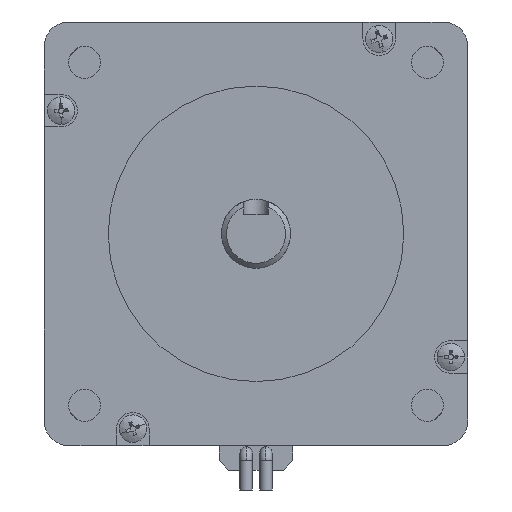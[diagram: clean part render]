
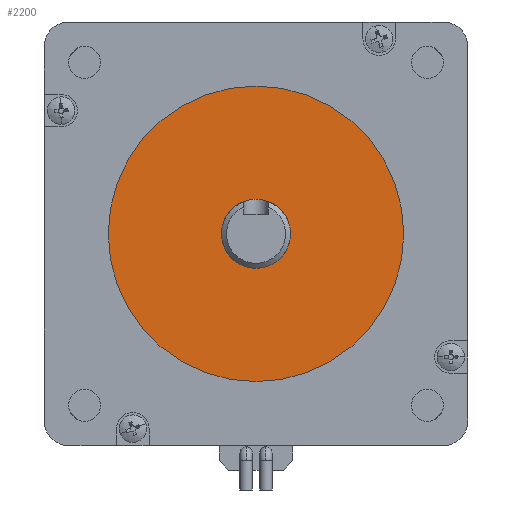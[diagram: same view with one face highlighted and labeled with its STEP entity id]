
A CAD part, front view. The second image highlights one B-rep face of the part: STEP entity #2200.
In plain terms, the highlighted planar face has unit normal (0, -1, 0).
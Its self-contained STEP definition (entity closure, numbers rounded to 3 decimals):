
#86 = EDGE_LOOP ( 'NONE', ( #2986, #1190 ) ) ;
#113 = AXIS2_PLACEMENT_3D ( 'NONE', #3640, #1755, #4327 ) ;
#373 = EDGE_CURVE ( 'NONE', #3242, #5963, #3762, .T. ) ;
#768 = EDGE_LOOP ( 'NONE', ( #6072, #1205 ) ) ;
#976 = VERTEX_POINT ( 'NONE', #1807 ) ;
#1073 = AXIS2_PLACEMENT_3D ( 'NONE', #3435, #5398, #4840 ) ;
#1157 = CIRCLE ( 'NONE', #1957, 30. ) ;
#1190 = ORIENTED_EDGE ( 'NONE', *, *, #4432, .F. ) ;
#1205 = ORIENTED_EDGE ( 'NONE', *, *, #2059, .T. ) ;
#1615 = CARTESIAN_POINT ( 'NONE',  ( -9.053, -35.091, 7.965 ) ) ;
#1682 = CARTESIAN_POINT ( 'NONE',  ( -9.053, -35.091, 14.965 ) ) ;
#1720 = PLANE ( 'NONE',  #113 ) ;
#1755 = DIRECTION ( 'NONE',  ( 0., 1., 0. ) ) ;
#1807 = CARTESIAN_POINT ( 'NONE',  ( -9.053, -35.091, 37.965 ) ) ;
#1957 = AXIS2_PLACEMENT_3D ( 'NONE', #1615, #4047, #2581 ) ;
#1995 = CIRCLE ( 'NONE', #2523, 30. ) ;
#2059 = EDGE_CURVE ( 'NONE', #976, #3148, #1995, .T. ) ;
#2200 = ADVANCED_FACE ( 'NONE', ( #2735, #6020 ), #1720, .F. ) ;
#2317 = DIRECTION ( 'NONE',  ( 0., 0., -1. ) ) ;
#2523 = AXIS2_PLACEMENT_3D ( 'NONE', #4165, #3187, #2317 ) ;
#2581 = DIRECTION ( 'NONE',  ( 0., 0., -1. ) ) ;
#2735 = FACE_BOUND ( 'NONE', #86, .T. ) ;
#2740 = DIRECTION ( 'NONE',  ( 0., -1., 0. ) ) ;
#2986 = ORIENTED_EDGE ( 'NONE', *, *, #373, .F. ) ;
#3148 = VERTEX_POINT ( 'NONE', #5887 ) ;
#3187 = DIRECTION ( 'NONE',  ( 0., -1., 0. ) ) ;
#3242 = VERTEX_POINT ( 'NONE', #5094 ) ;
#3435 = CARTESIAN_POINT ( 'NONE',  ( -9.053, -35.091, 7.965 ) ) ;
#3466 = EDGE_CURVE ( 'NONE', #3148, #976, #1157, .T. ) ;
#3640 = CARTESIAN_POINT ( 'NONE',  ( -9.053, -35.091, 37.965 ) ) ;
#3762 = CIRCLE ( 'NONE', #1073, 7. ) ;
#4047 = DIRECTION ( 'NONE',  ( 0., -1., 0. ) ) ;
#4165 = CARTESIAN_POINT ( 'NONE',  ( -9.053, -35.091, 7.965 ) ) ;
#4172 = CIRCLE ( 'NONE', #4974, 7. ) ;
#4327 = DIRECTION ( 'NONE',  ( 0., 0., 1. ) ) ;
#4432 = EDGE_CURVE ( 'NONE', #5963, #3242, #4172, .T. ) ;
#4840 = DIRECTION ( 'NONE',  ( 0., 0., -1. ) ) ;
#4974 = AXIS2_PLACEMENT_3D ( 'NONE', #6054, #2740, #5549 ) ;
#5094 = CARTESIAN_POINT ( 'NONE',  ( -9.053, -35.091, 0.965 ) ) ;
#5398 = DIRECTION ( 'NONE',  ( 0., -1., 0. ) ) ;
#5549 = DIRECTION ( 'NONE',  ( 0., 0., -1. ) ) ;
#5887 = CARTESIAN_POINT ( 'NONE',  ( -9.053, -35.091, -22.035 ) ) ;
#5963 = VERTEX_POINT ( 'NONE', #1682 ) ;
#6020 = FACE_OUTER_BOUND ( 'NONE', #768, .T. ) ;
#6054 = CARTESIAN_POINT ( 'NONE',  ( -9.053, -35.091, 7.965 ) ) ;
#6072 = ORIENTED_EDGE ( 'NONE', *, *, #3466, .T. ) ;
